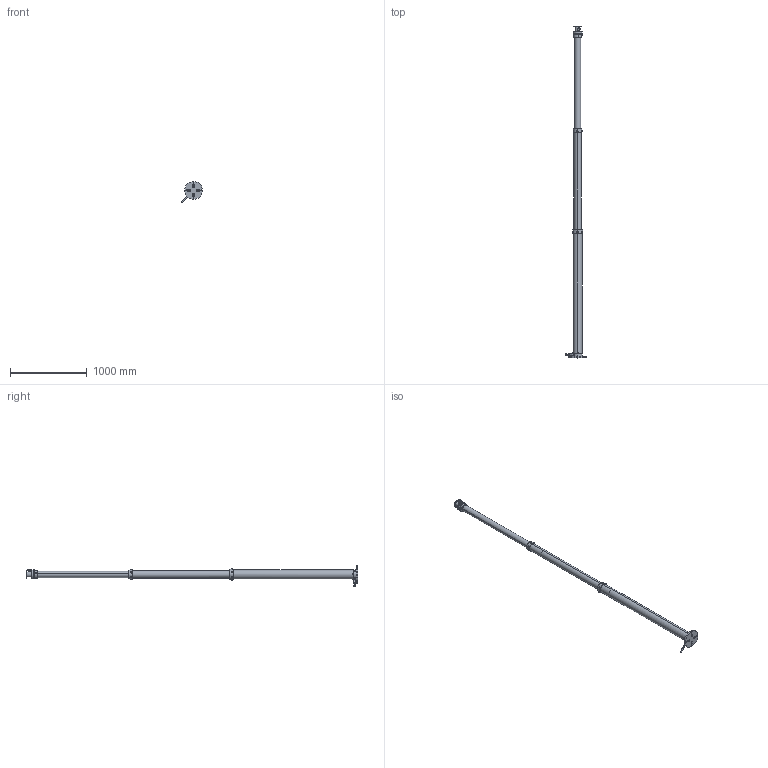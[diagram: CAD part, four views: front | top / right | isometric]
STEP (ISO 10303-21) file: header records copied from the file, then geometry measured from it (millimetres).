
FILE_DESCRIPTION (( 'STEP AP214' ), '1' );
FILE_NAME ('PLM-13-3S Extended.STEP', '2015-11-09T17:56:34', ( '' ), ( '' ), 'SwSTEP 2.0', 'SolidWorks 2016', '' );
FILE_SCHEMA (( 'AUTOMOTIVE_DESIGN' ));
Length unit declared in the file: inch
Products named in the file (15): socket button head cap screw_ai_SBHCSCREW 0.375-16x0.375-HX-N; lock washer spring regular_ai_Regular LW 0.375; flat washer type b narrow_ai_Narrow FW 0.375; PLM Top Mount Cap Knob; PLM Top Mount Cap; LM-18-3S STAGE 3_LM-13; LM-18-3S STAGE 2_LM-13; LM-18-3S STAGE 1_LM-13; PLM-13-3S Extended; socket head cap screw_ai_HX-SHCS 0.3125-18x0.625x0.625-N; lock washer spring regular_ai_Regular LW 0.3125; socket head cap screw_ai_HX-SHCS 0.4375-14x0.625x0.625-N; socket set screw flat point_ai_SSFLATSKT 0.3125-18x0.25-HX-N; socket head cap screw_ai_HX-SHCS 0.25-28x0.25x0.25-N; lock washer spring regular_ai_Regular LW 0.25
Assembly tree (59 placements, depth 2):
  PLM-13-3S Extended
    LM-18-3S STAGE 1_LM-13
    LM-18-3S STAGE 2_LM-13
    LM-18-3S STAGE 3_LM-13
    PLM Top Mount Cap
    PLM Top Mount Cap Knob
    flat washer type b narrow_ai_Narrow FW 0.375  x12
    lock washer spring regular_ai_Regular LW 0.375  x12
    socket button head cap screw_ai_SBHCSCREW 0.375-16x0.375-HX-N  x12
    lock washer spring regular_ai_Regular LW 0.25  x2
    socket head cap screw_ai_HX-SHCS 0.25-28x0.25x0.25-N  x2
    socket set screw flat point_ai_SSFLATSKT 0.3125-18x0.25-HX-N  x2
    socket head cap screw_ai_HX-SHCS 0.4375-14x0.625x0.625-N  x4
    lock washer spring regular_ai_Regular LW 0.3125  x4
    socket head cap screw_ai_HX-SHCS 0.3125-18x0.625x0.625-N  x4
Bounding box: 274.41 x 4326.46 x 274.41 mm (x, y, z)
Volume: 13213525.3 mm3; surface area: 3024347.2 mm2
Topology: 65 solids, 65 shells, 1123 faces, 2604 edges, 1596 vertices
Faces by surface type: plane 518, cylinder 395, cone 124, torus 42, sphere 24, bspline 20
Entity records: 27508 total; most frequent: CARTESIAN_POINT 14931, ORIENTED_EDGE 2460, DIRECTION 2382, EDGE_CURVE 1230, AXIS2_PLACEMENT_3D 943, VERTEX_POINT 774, EDGE_LOOP 590, LINE 496
